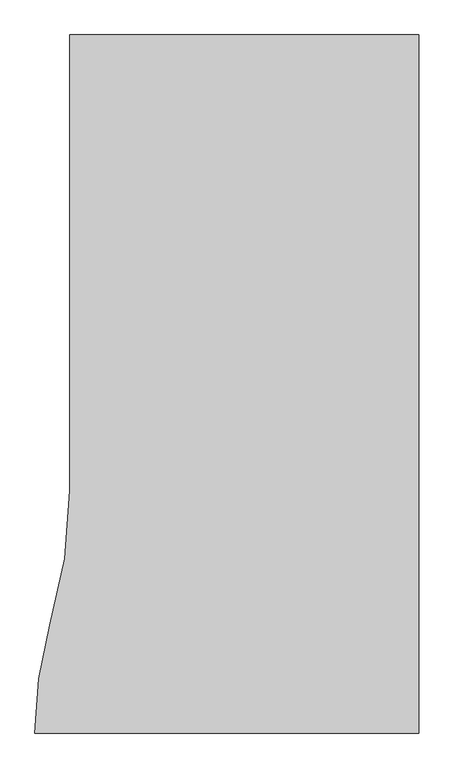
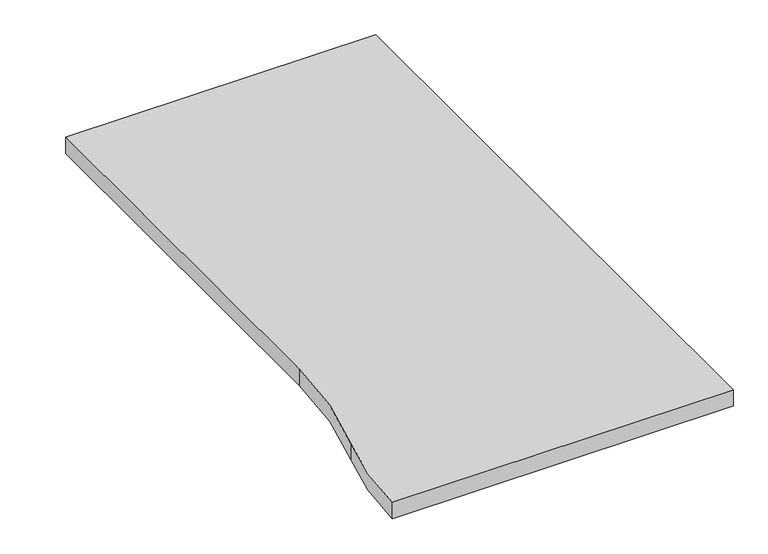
"""IFC4 building model written with IfcOpenShell, lengths in millimetres: proxy geometry, Água1 : Água."""

from ifc_helpers import new_model, si_unit, frame, origin, place, context, project, spatial, polyline, circle_curve, source, transform, mapped, element, save
from ifc_brep_helpers import plane_surface, cylinder_surface, revolved_surface, advanced_brep


def generic_models_525e2e9f(model_context):
    return source(origin(), model_context, "Body", "AdvancedBrep", [
        advanced_brep(
        [(-9053.9813168, -5378.608239, -5.0), (-9053.9813168, -7140.9531398, -5.0), (-9130.8006624, -7662.0351952, -5.0), (-9189.0179614, -8078.608239, -5.0), (-7703.9813168, -8078.608239, -5.0), (-7703.9813168, -5378.608239, -5.0), (-9053.9813168, -5378.608239, -80.0), (-7703.9813168, -5378.608239, -80.0), (-7703.9813168, -8078.608239, -80.0), (-9189.0179614, -8078.608239, -80.0), (-9130.8006624, -7662.0351952, -80.0), (-9054.0032488, -7140.9531398, -80.0)],
        [
            (0, 1),
            (1, 2, circle_curve(frame((-10860.2121954, -7140.9531398, -5.0), z_axis=(0.0, 0.0, -1.0), x_axis=(0.0, -1.0, 0.0)), 1806.2089466)),
            (2, 3, circle_curve(frame((-7682.8323015, -8076.7475412, -5.0), z_axis=(0.0, 0.0, 1.0), x_axis=(0.0, -1.0, 0.0)), 1506.1868092)),
            (3, 4),
            (4, 5),
            (5, 0),
            (6, 7),
            (7, 8),
            (8, 9),
            (9, 10, circle_curve(frame((-7682.8323015, -8076.7475412, -80.0), z_axis=(0.0, 0.0, -1.0), x_axis=(0.0, -1.0, 0.0)), 1506.1868092)),
            (10, 11, circle_curve(frame((-10860.2121954, -7140.9531398, -80.0), z_axis=(0.0, 0.0, 1.0), x_axis=(0.0, -1.0, 0.0)), 1806.2089466)),
            (11, 6),
            (3, 9),
            (8, 4),
            (5, 7),
            (6, 0),
            (11, 1),
            (10, 2),
        ],
        [
            plane_surface(frame((-9053.9813168, -7140.9531398, -5.0), z_axis=(0.0, 0.0, 1.0), x_axis=(0.0, -1.0, 0.0))),
            plane_surface(frame((-9053.9813168, -7140.9531398, -80.0), z_axis=(0.0, 0.0, -1.0), x_axis=(0.0, 1.0, 0.0))),
            plane_surface(frame((-9189.0179614, -8078.608239, -5.0), z_axis=(0.0, -1.0, 0.0), x_axis=(0.0, 0.0, -1.0))),
            plane_surface(frame((-7703.9813168, -5378.608239, -5.0), z_axis=(0.0, 1.0, 0.0), x_axis=(0.0, 0.0, -1.0))),
            plane_surface(frame((-7703.9813168, -8078.608239, -5.0), z_axis=(1.0, 0.0, 0.0), x_axis=(0.0, 0.0, -1.0))),
            plane_surface(frame((-9053.9813168, -5378.608239, -5.0), z_axis=(-1.0, 0.0, 0.0), x_axis=(0.0, 0.0, -1.0))),
            revolved_surface(polyline([(-10860.2121954, -8947.1620864, -80.0), (-10860.2121954, -8947.1620864, -5.0)]), (-10860.2121954, -7140.9531398, -80.0), (0.0, 0.0, -1.0)),
            cylinder_surface(frame((-7682.8323015, -8076.7475412, -80.0), z_axis=(0.0, 0.0, 1.0), x_axis=(0.0, -1.0, 0.0)), 1506.1868092),
        ],
        [
            (0, [[1, 2, 3, 4, 5, 6]]),
            (1, [[7, 8, 9, 10, 11, 12]]),
            (2, [[-4, 13, -9, 14]]),
            (3, [[-6, 15, -7, 16]]),
            (4, [[-5, -14, -8, -15]]),
            (5, [[-1, -16, -12, 17]]),
            (6, [[-2, -17, -11, 18]]),
            (7, [[-3, -18, -10, -13]]),
        ],
    ),
    ])


if __name__ == "__main__":
    model = new_model("IFC4")
    model_context = context("Model", 3, world=origin())
    ifc_project = project(units=[si_unit("LENGTHUNIT", "METRE", prefix="MILLI")], contexts=[model_context])
    site = spatial("IfcSite", under=ifc_project)
    building = spatial("IfcBuilding", under=site)
    placement = place(None, origin())
    generic_models_shape = generic_models_525e2e9f(model_context)
    element("IfcBuildingElementProxy", 1, Name="Água1 : Água", ObjectType="Água1 : Água", at=placement, inside=building, context=model_context, shape_type="MappedRepresentation", body=[
        mapped(generic_models_shape, transform((0.0, 0.0, 0.0), x_axis=(1.0, 0.0, 0.0), y_axis=(0.0, 1.0, 0.0), z_axis=(0.0, 0.0, 1.0))),
    ])
    save(model, "model.ifc")
